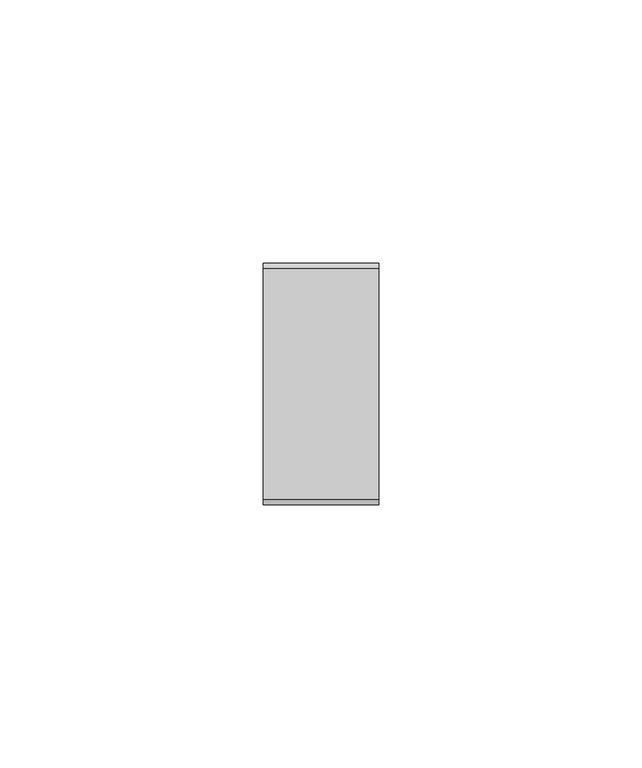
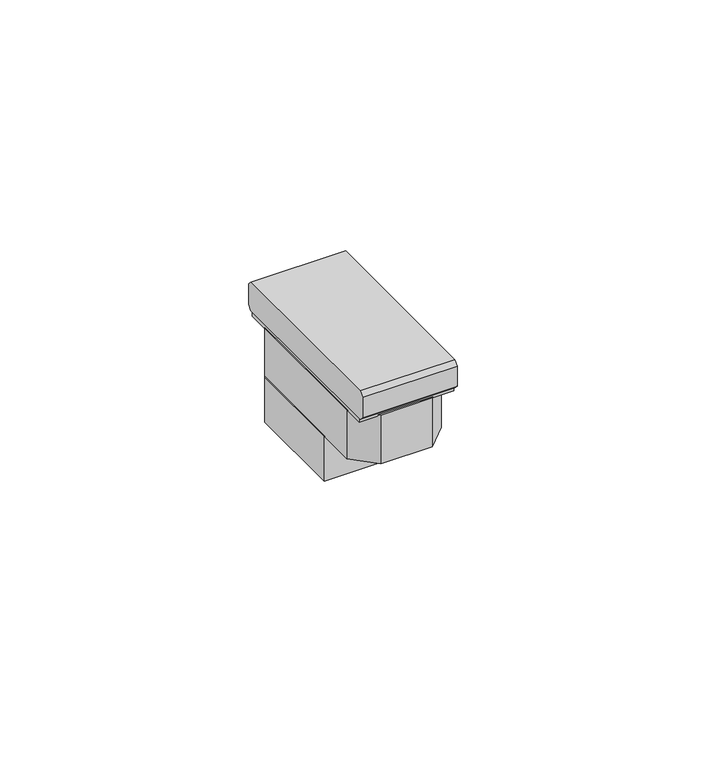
"""IFC4 building model written with IfcOpenShell, lengths in millimetres: proxy geometry, L4351-12 LI suoneria : L4351-12 LI suoneria."""

from ifc_helpers import new_model, si_unit, frame, origin, origin_with_axes, place, context, project, spatial, polyline, outline, extrude, source, transform, mapped, element, save


def electrical_fixtures_5bb5539e(model_context):
    return source(origin(), model_context, "Body", "SweptSolid", [
        extrude(outline(polyline([(-22.0, 1.0), (-22.9899495, 1.9899495), (-22.9899495, 6.9899495), (-22.0, 7.979899), (22.0, 7.979899), (22.9899495, 6.9899495), (22.9899495, 1.9899495), (22.0, 1.0), (-22.0, 1.0)])), frame((-11.0, 0.0, 0.0), z_axis=(1.0, 0.0, 0.0), x_axis=(0.0, 1.0, 0.0)), (0.0, 0.0, 1.0), 22.0),
        extrude(outline(polyline([(-11.0, -7.5), (-11.0, 16.5), (-9.0, 18.5), (9.0, 18.5), (11.0, 16.5), (11.0, -7.5), (-11.0, -7.5)])), frame((0.0, 0.0, -23.0), z_axis=(0.0, 0.0, 1.0), x_axis=(1.0, 0.0, 0.0)), (0.0, 0.0, 1.0), 11.0),
        extrude(outline(polyline([(11.0, -16.5), (6.0, -21.5), (-6.0, -21.5), (-11.0, -16.5), (-11.0, 16.5), (-6.0, 21.5), (6.0, 21.5), (11.0, 16.5), (11.0, -16.5)])), frame((0.0, 0.0, -12.0), z_axis=(0.0, 0.0, 1.0), x_axis=(1.0, 0.0, 0.0)), (0.0, 0.0, 1.0), 12.0),
        extrude(outline(polyline([(11.0, -21.5), (-11.0, -21.5), (-11.0, 21.5), (11.0, 21.5), (11.0, -21.5)])), origin_with_axes(), (0.0, 0.0, 1.0), 1.0),
    ])


if __name__ == "__main__":
    model = new_model("IFC4")
    model_context = context("Model", 3, world=origin())
    ifc_project = project(units=[si_unit("LENGTHUNIT", "METRE", prefix="MILLI")], contexts=[model_context])
    site = spatial("IfcSite", under=ifc_project)
    building = spatial("IfcBuilding", under=site)
    placement = place(None, origin())
    electrical_fixtures_shape = electrical_fixtures_5bb5539e(model_context)
    element("IfcBuildingElementProxy", 1, Name="L4351-12 LI suoneria : L4351-12 LI suoneria", ObjectType="L4351-12 LI suoneria : L4351-12 LI suoneria", at=placement, inside=building, context=model_context, shape_type="MappedRepresentation", body=[
        mapped(electrical_fixtures_shape, transform((0.0, 0.0, 0.0), x_axis=(1.0, 0.0, 0.0), y_axis=(0.0, 1.0, 0.0), z_axis=(0.0, 0.0, 1.0))),
    ])
    save(model, "model.ifc")
